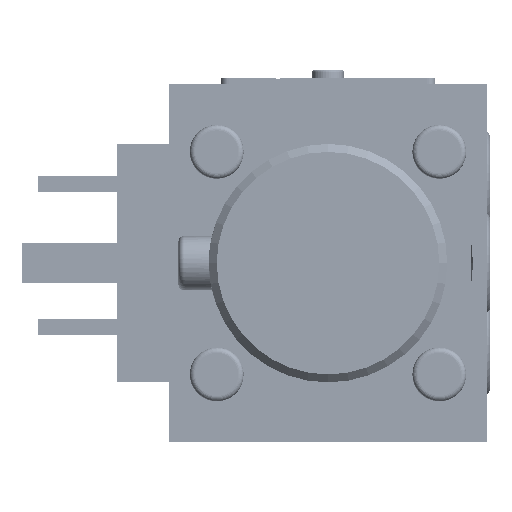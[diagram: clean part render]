
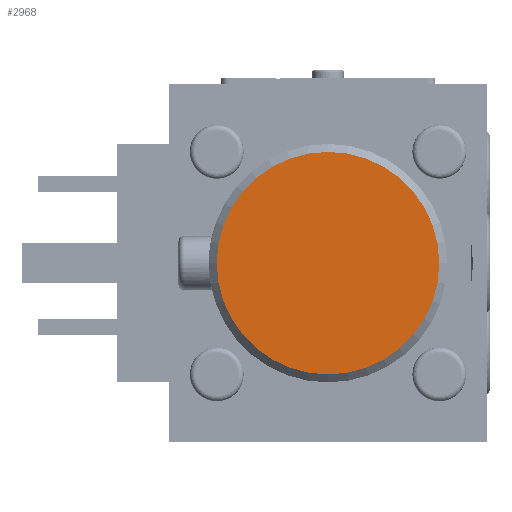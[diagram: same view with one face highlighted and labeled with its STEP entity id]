
A CAD part, left-side view. The second image highlights one B-rep face of the part: STEP entity #2968.
In plain terms, the highlighted planar face has unit normal (-1, 0, 0).
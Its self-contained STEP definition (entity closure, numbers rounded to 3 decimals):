
#1029=FACE_OUTER_BOUND('',#4611,.T.);
#2545=CIRCLE('',#13053,14.);
#2968=ADVANCED_FACE('',(#1029),#3761,.F.);
#3761=PLANE('',#13054);
#4611=EDGE_LOOP('',(#5716));
#5716=ORIENTED_EDGE('',*,*,#10143,.T.);
#8985=VERTEX_POINT('',#17044);
#10143=EDGE_CURVE('',#8985,#8985,#2545,.T.);
#13053=AXIS2_PLACEMENT_3D('',#17043,#14154,#14155);
#13054=AXIS2_PLACEMENT_3D('',#17045,#14156,#14157);
#14154=DIRECTION('',(-1.,0.,0.));
#14155=DIRECTION('',(0.,0.,1.));
#14156=DIRECTION('',(1.,0.,0.));
#14157=DIRECTION('',(0.,0.,-1.));
#17043=CARTESIAN_POINT('',(24.997,177.88,0.));
#17044=CARTESIAN_POINT('',(24.997,177.88,14.));
#17045=CARTESIAN_POINT('',(24.997,163.88,0.));
